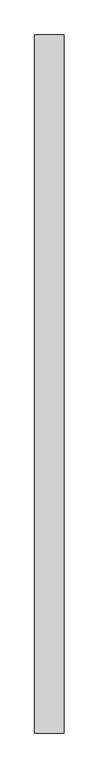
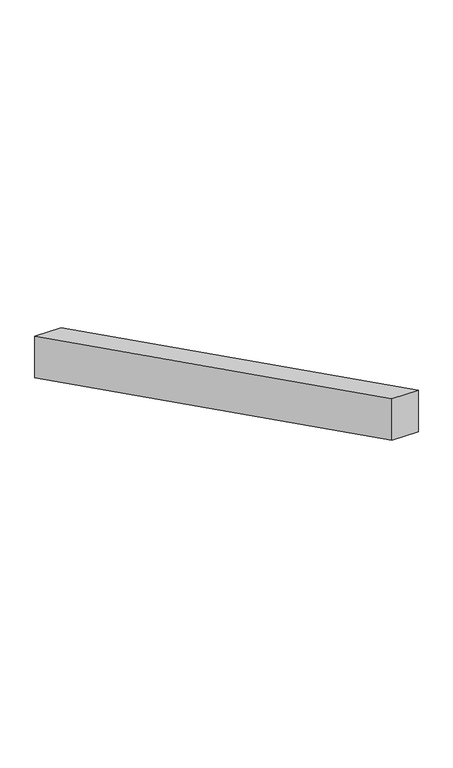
"""IFC4 building model written with IfcOpenShell, lengths in millimetres: railing geometry, Ограждение 1."""

from ifc_helpers import new_model, si_unit, frame, origin, place, context, project, spatial, polyline, outline, extrude, source, transform, mapped, element, save


def railing_22186c04(model_context):
    return source(origin(), model_context, "Body", "SweptSolid", [
        extrude(outline(polyline([(7494.9949335, 250.0), (7494.9949335, 164.8058101), (6294.9949335, 764.8058101), (6294.9949335, 850.0), (7494.9949335, 250.0)])), frame((-250.8, 0.0, 0.0), z_axis=(1.0, 0.0, 0.0), x_axis=(0.0, 1.0, 0.0)), (0.0, 0.0, 1.0), 50.8),
    ])


if __name__ == "__main__":
    model = new_model("IFC4")
    model_context = context("Model", 3, world=origin())
    ifc_project = project(units=[si_unit("LENGTHUNIT", "METRE", prefix="MILLI")], contexts=[model_context])
    site = spatial("IfcSite", under=ifc_project)
    building = spatial("IfcBuilding", under=site)
    placement = place(None, origin())
    railing_shape = railing_22186c04(model_context)
    element("IfcRailing", 1, ObjectType="Ограждение 1", at=placement, inside=building, context=model_context, shape_type="MappedRepresentation", body=[
        mapped(railing_shape, transform((0.0, 0.0, 0.0), x_axis=(1.0, 0.0, 0.0), y_axis=(0.0, 1.0, 0.0), z_axis=(0.0, 0.0, 1.0))),
    ])
    save(model, "model.ifc")
